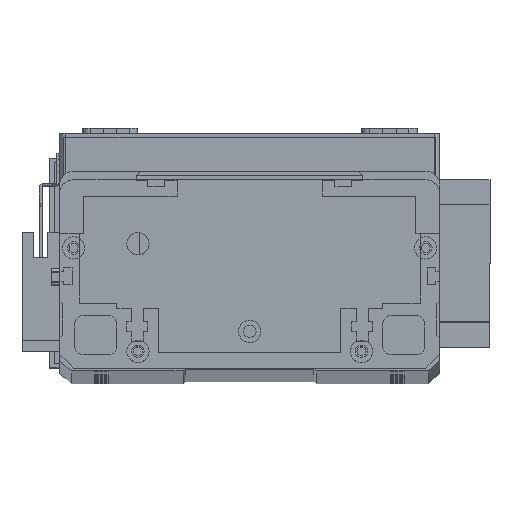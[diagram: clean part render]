
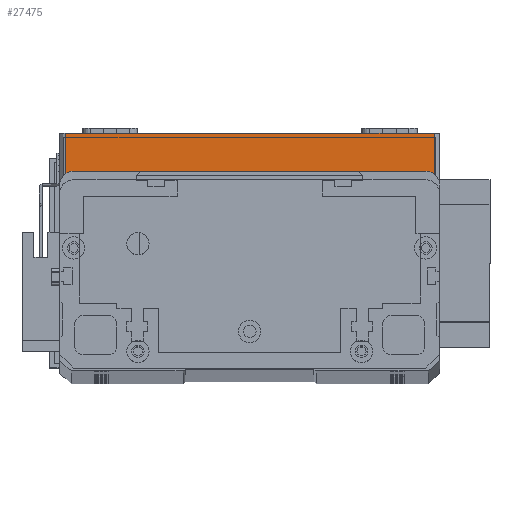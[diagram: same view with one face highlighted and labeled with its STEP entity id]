
A CAD part, top view. The second image highlights one B-rep face of the part: STEP entity #27475.
In plain terms, the highlighted planar face has unit normal (0, 0, 1) as drawn and (0, -1, 0) by its records, which use the part's own axes.
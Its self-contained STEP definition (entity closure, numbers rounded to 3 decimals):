
#309 = LINE ( 'NONE', #25081, #24831 ) ;
#1069 = CARTESIAN_POINT ( 'NONE',  ( 0., 0., 19.5 ) ) ;
#1331 = CARTESIAN_POINT ( 'NONE',  ( 134., 0., 19.5 ) ) ;
#4522 = CARTESIAN_POINT ( 'NONE',  ( 0., 0., 0. ) ) ;
#4900 = VECTOR ( 'NONE', #12239, 1000. ) ;
#5838 = DIRECTION ( 'NONE',  ( 0., 0., 1. ) ) ;
#6058 = DIRECTION ( 'NONE',  ( 0., 0., 1. ) ) ;
#6306 = VERTEX_POINT ( 'NONE', #22448 ) ;
#6916 = DIRECTION ( 'NONE',  ( 1., 0., 0. ) ) ;
#7068 = CARTESIAN_POINT ( 'NONE',  ( 2., 0., 19.5 ) ) ;
#7089 = EDGE_LOOP ( 'NONE', ( #24644, #17034, #17526, #9561 ) ) ;
#7282 = EDGE_CURVE ( 'NONE', #6306, #23128, #28650, .T. ) ;
#9410 = FACE_OUTER_BOUND ( 'NONE', #7089, .T. ) ;
#9432 = DIRECTION ( 'NONE',  ( 0., 0., -1. ) ) ;
#9437 = AXIS2_PLACEMENT_3D ( 'NONE', #1069, #20059, #5838 ) ;
#9561 = ORIENTED_EDGE ( 'NONE', *, *, #23385, .T. ) ;
#9671 = VECTOR ( 'NONE', #9432, 1000. ) ;
#9753 = CARTESIAN_POINT ( 'NONE',  ( 2., 0., 0. ) ) ;
#10660 = VECTOR ( 'NONE', #6916, 1000. ) ;
#11420 = LINE ( 'NONE', #4522, #10660 ) ;
#12194 = EDGE_CURVE ( 'NONE', #23128, #28185, #11420, .T. ) ;
#12239 = DIRECTION ( 'NONE',  ( 1., 0., 0. ) ) ;
#13100 = VERTEX_POINT ( 'NONE', #1331 ) ;
#15285 = PLANE ( 'NONE',  #9437 ) ;
#17034 = ORIENTED_EDGE ( 'NONE', *, *, #7282, .T. ) ;
#17504 = LINE ( 'NONE', #26377, #4900 ) ;
#17526 = ORIENTED_EDGE ( 'NONE', *, *, #12194, .T. ) ;
#20059 = DIRECTION ( 'NONE',  ( 0., 1., 0. ) ) ;
#22448 = CARTESIAN_POINT ( 'NONE',  ( 2., 0., 19.5 ) ) ;
#23128 = VERTEX_POINT ( 'NONE', #9753 ) ;
#23385 = EDGE_CURVE ( 'NONE', #28185, #13100, #309, .T. ) ;
#24644 = ORIENTED_EDGE ( 'NONE', *, *, #28548, .F. ) ;
#24831 = VECTOR ( 'NONE', #6058, 1000. ) ;
#25081 = CARTESIAN_POINT ( 'NONE',  ( 134., 0., 19.5 ) ) ;
#26377 = CARTESIAN_POINT ( 'NONE',  ( 0., 0., 19.5 ) ) ;
#27475 = ADVANCED_FACE ( 'NONE', ( #9410 ), #15285, .F. ) ;
#28185 = VERTEX_POINT ( 'NONE', #29913 ) ;
#28548 = EDGE_CURVE ( 'NONE', #6306, #13100, #17504, .T. ) ;
#28650 = LINE ( 'NONE', #7068, #9671 ) ;
#29913 = CARTESIAN_POINT ( 'NONE',  ( 134., 0., 0. ) ) ;
